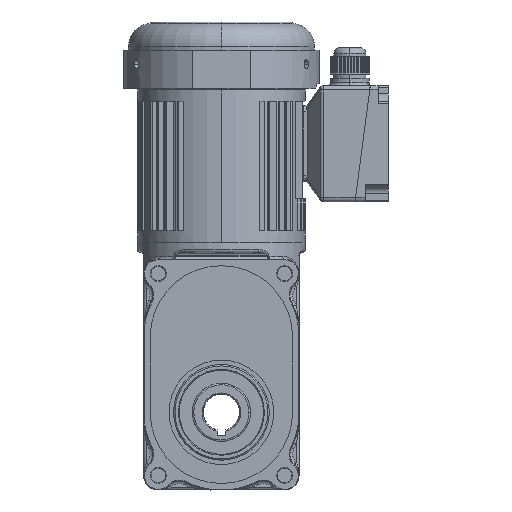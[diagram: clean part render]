
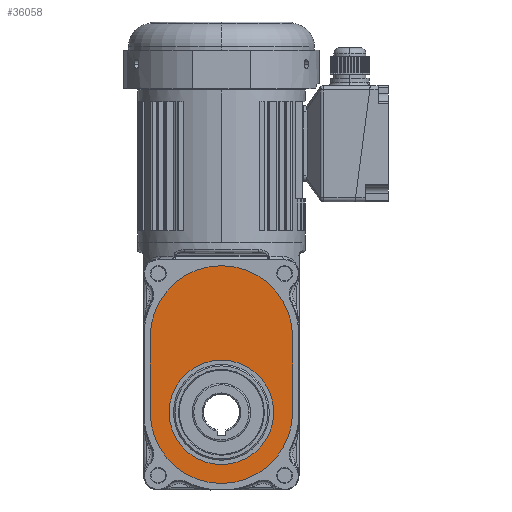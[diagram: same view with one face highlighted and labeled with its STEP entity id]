
A CAD part, front view. The second image highlights one B-rep face of the part: STEP entity #36058.
In plain terms, the highlighted planar face has unit normal (0, -1, 0).
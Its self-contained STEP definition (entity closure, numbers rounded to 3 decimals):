
#2051 = VECTOR ( 'NONE', #44590, 1000. ) ;
#4596 = CARTESIAN_POINT ( 'NONE',  ( 8.75, 10.5, -75. ) ) ;
#6651 = CARTESIAN_POINT ( 'NONE',  ( 57.75, 10.5, -127. ) ) ;
#6801 = CARTESIAN_POINT ( 'NONE',  ( 57.75, 10.5, -176. ) ) ;
#7798 = VERTEX_POINT ( 'NONE', #6801 ) ;
#8463 = EDGE_CURVE ( 'NONE', #42435, #40478, #19544, .T. ) ;
#8823 = CARTESIAN_POINT ( 'NONE',  ( 57.75, 10.5, -127. ) ) ;
#8974 = DIRECTION ( 'NONE',  ( 0., 0., -1. ) ) ;
#9763 = VECTOR ( 'NONE', #74876, 1000. ) ;
#10697 = AXIS2_PLACEMENT_3D ( 'NONE', #8823, #25323, #37216 ) ;
#12394 = DIRECTION ( 'NONE',  ( 0., 1., 0. ) ) ;
#16027 = AXIS2_PLACEMENT_3D ( 'NONE', #6651, #12394, #47333 ) ;
#16574 = EDGE_CURVE ( 'NONE', #40478, #42435, #29513, .T. ) ;
#19443 = CARTESIAN_POINT ( 'NONE',  ( 57.75, 10.5, -127. ) ) ;
#19544 = CIRCLE ( 'NONE', #44055, 36. ) ;
#20987 = VERTEX_POINT ( 'NONE', #22982 ) ;
#22982 = CARTESIAN_POINT ( 'NONE',  ( 106.75, 10.5, -75. ) ) ;
#25323 = DIRECTION ( 'NONE',  ( 0., -1., 0. ) ) ;
#25577 = ORIENTED_EDGE ( 'NONE', *, *, #66537, .T. ) ;
#25715 = CARTESIAN_POINT ( 'NONE',  ( 57.75, 10.5, -91. ) ) ;
#26125 = AXIS2_PLACEMENT_3D ( 'NONE', #73624, #50275, #31463 ) ;
#26630 = CARTESIAN_POINT ( 'NONE',  ( 57.75, 10.5, -127. ) ) ;
#29513 = CIRCLE ( 'NONE', #16027, 36. ) ;
#30210 = DIRECTION ( 'NONE',  ( -1., 0., 0. ) ) ;
#31040 = CIRCLE ( 'NONE', #26125, 49. ) ;
#31463 = DIRECTION ( 'NONE',  ( 1., 0., 0. ) ) ;
#36058 = ADVANCED_FACE ( 'NONE', ( #46996, #41219 ), #58871, .T. ) ;
#36760 = ORIENTED_EDGE ( 'NONE', *, *, #59892, .T. ) ;
#37216 = DIRECTION ( 'NONE',  ( -1., 0., 0. ) ) ;
#37528 = CARTESIAN_POINT ( 'NONE',  ( 106.75, 10.5, -127. ) ) ;
#40478 = VERTEX_POINT ( 'NONE', #25715 ) ;
#41064 = ORIENTED_EDGE ( 'NONE', *, *, #8463, .T. ) ;
#41219 = FACE_BOUND ( 'NONE', #54671, .T. ) ;
#42435 = VERTEX_POINT ( 'NONE', #65351 ) ;
#43183 = VERTEX_POINT ( 'NONE', #37528 ) ;
#44055 = AXIS2_PLACEMENT_3D ( 'NONE', #26630, #62264, #8974 ) ;
#44590 = DIRECTION ( 'NONE',  ( 0., 0., -1. ) ) ;
#45014 = LINE ( 'NONE', #74112, #9763 ) ;
#46365 = ORIENTED_EDGE ( 'NONE', *, *, #62836, .F. ) ;
#46996 = FACE_OUTER_BOUND ( 'NONE', #52043, .T. ) ;
#47164 = AXIS2_PLACEMENT_3D ( 'NONE', #19443, #48251, #30210 ) ;
#47333 = DIRECTION ( 'NONE',  ( 0., 0., -1. ) ) ;
#48251 = DIRECTION ( 'NONE',  ( 0., -1., 0. ) ) ;
#48669 = CIRCLE ( 'NONE', #10697, 49. ) ;
#50275 = DIRECTION ( 'NONE',  ( 0., -1., 0. ) ) ;
#51258 = CARTESIAN_POINT ( 'NONE',  ( 57.75, 10.5, -127. ) ) ;
#52043 = EDGE_LOOP ( 'NONE', ( #62831, #36760, #53949, #25577, #46365 ) ) ;
#52463 = VERTEX_POINT ( 'NONE', #4596 ) ;
#53949 = ORIENTED_EDGE ( 'NONE', *, *, #59659, .F. ) ;
#54256 = DIRECTION ( 'NONE',  ( 0., -1., 0. ) ) ;
#54671 = EDGE_LOOP ( 'NONE', ( #41064, #59788 ) ) ;
#58871 = PLANE ( 'NONE',  #73238 ) ;
#59659 = EDGE_CURVE ( 'NONE', #20987, #43183, #62597, .T. ) ;
#59788 = ORIENTED_EDGE ( 'NONE', *, *, #16574, .T. ) ;
#59892 = EDGE_CURVE ( 'NONE', #7798, #43183, #48669, .T. ) ;
#62264 = DIRECTION ( 'NONE',  ( 0., 1., 0. ) ) ;
#62597 = LINE ( 'NONE', #69462, #2051 ) ;
#62831 = ORIENTED_EDGE ( 'NONE', *, *, #75502, .T. ) ;
#62836 = EDGE_CURVE ( 'NONE', #75490, #52463, #45014, .T. ) ;
#64305 = CIRCLE ( 'NONE', #47164, 49. ) ;
#65351 = CARTESIAN_POINT ( 'NONE',  ( 57.75, 10.5, -163. ) ) ;
#66537 = EDGE_CURVE ( 'NONE', #20987, #52463, #31040, .T. ) ;
#69462 = CARTESIAN_POINT ( 'NONE',  ( 106.75, 10.5, -75. ) ) ;
#71864 = DIRECTION ( 'NONE',  ( 0., 0., -1. ) ) ;
#71981 = CARTESIAN_POINT ( 'NONE',  ( 8.75, 10.5, -127. ) ) ;
#73238 = AXIS2_PLACEMENT_3D ( 'NONE', #51258, #54256, #71864 ) ;
#73624 = CARTESIAN_POINT ( 'NONE',  ( 57.75, 10.5, -75. ) ) ;
#74112 = CARTESIAN_POINT ( 'NONE',  ( 8.75, 10.5, -127. ) ) ;
#74876 = DIRECTION ( 'NONE',  ( 0., 0., 1. ) ) ;
#75490 = VERTEX_POINT ( 'NONE', #71981 ) ;
#75502 = EDGE_CURVE ( 'NONE', #75490, #7798, #64305, .T. ) ;
